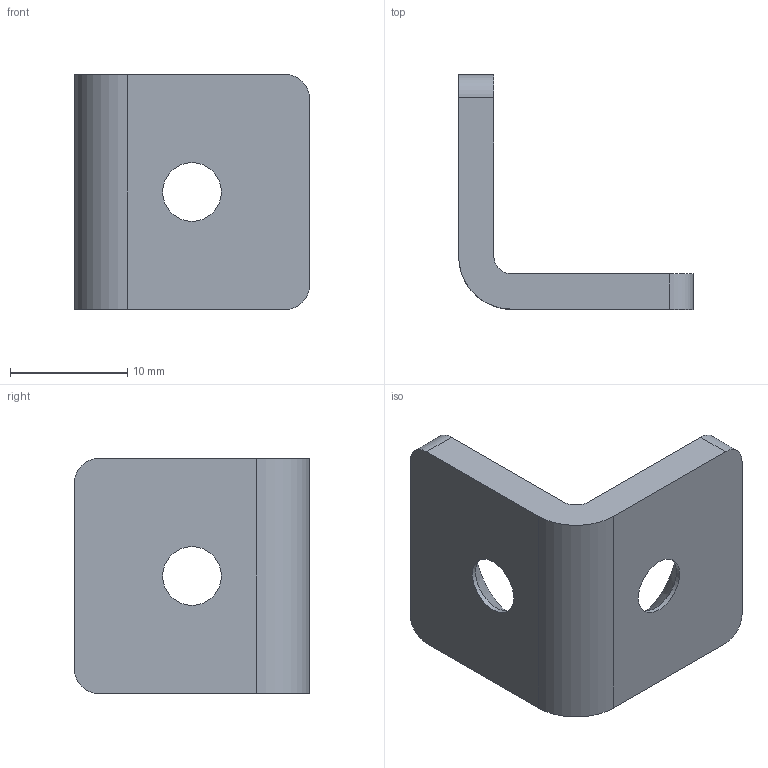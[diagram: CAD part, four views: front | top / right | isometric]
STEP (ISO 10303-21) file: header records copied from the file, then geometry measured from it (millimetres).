
FILE_DESCRIPTION( ( 'STEP AP203' ), '1' );
FILE_NAME( 'C:/Temp/Ganter_Step_05_03_2020/data/3_7/gn_967/gn_967_1/gn_967_1_l/Angle piece GN 967-20-20-L-1-ZB.stp', '2020-03-12T14:48:20', ( 'License CC BY-ND 4.0' ), ( 'CADENAS' ), ' ', 'PARTsolutions', ' ' );
FILE_SCHEMA( ( 'CONFIG_CONTROL_DESIGN' ) );
Length unit declared in the file: millimetre
Products named in the file (1): _Angle piece GN 967-20-20-L-1-ZB
Bounding box: 20 x 20 x 20 mm (x, y, z)
Volume: 1871.6 mm3; surface area: 1731.1 mm2
Topology: 1 solids, 1 shells, 18 faces, 46 edges, 30 vertices
Faces by surface type: cylinder 8, plane 8, cone 2
Full cylindrical faces by diameter (mm): 5 x2
Entity records: 584 total; most frequent: DIRECTION 98, CARTESIAN_POINT 91, ORIENTED_EDGE 84, EDGE_CURVE 42, AXIS2_PLACEMENT_3D 37, VERTEX_POINT 30, EDGE_LOOP 26, LINE 24
